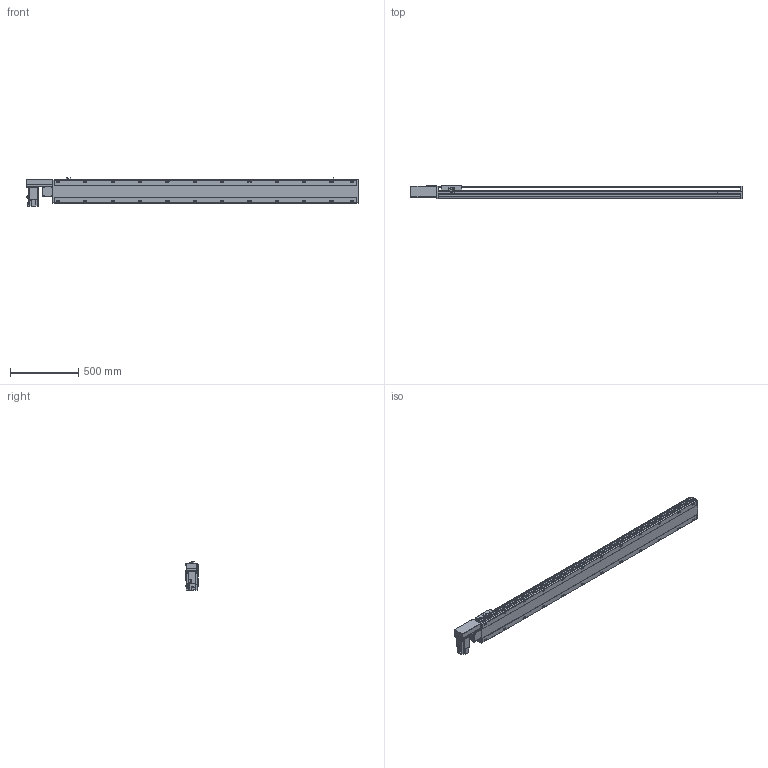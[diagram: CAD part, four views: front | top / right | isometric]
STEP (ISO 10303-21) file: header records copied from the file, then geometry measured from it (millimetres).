
FILE_DESCRIPTION(/* description */ ('STEP AP214'),/* implementation_level */ '2;1');
FILE_NAME(/* name */ 'PBS170-P40-S1950-R-T75-C1-N(0)',/* time_stamp */ '2022-06-07T09:31:26+02:00',/* author */ ('License CC BY-ND 4.0'),/* organization */ ('CADENAS'),/* preprocessor_version */ 'ST-DEVELOPER v18.102',/* originating_system */ 'PARTsolutions',/* authorisation */ ' ');
FILE_SCHEMA (('AUTOMOTIVE_DESIGN {1 0 10303 214 3 1 1}'));
Length unit declared in the file: millimetre
Products named in the file (7): PBS170-P40-S1950-R-T75-C1-N(0); PBS170_sensor; PBS170_plant; PBS170_sliser; T75-p1; PBS170T-R_motors; PBS170-S1950()_body
Assembly tree (8 placements, depth 2):
  PBS170-P40-S1950-R-T75-C1-N(0)
    PBS170_sensor  x3
    PBS170_plant
    PBS170_sliser
    T75-p1
    PBS170T-R_motors
    PBS170-S1950()_body
Bounding box: 2428 x 97 x 205.3 mm (x, y, z)
Volume: 17760038.5 mm3; surface area: 2256627.2 mm2
Topology: 8 solids, 8 shells, 1146 faces, 3035 edges, 1978 vertices
Faces by surface type: plane 711, cylinder 371, cone 54, sphere 8, torus 2
Full cylindrical faces by diameter (mm): 3.242 x4, 4 x2, 4.4 x4, 4.5 x6, 4.917 x4, 6 x9, 6.647 x32, 7 x2, 7.5 x4, 8 x8, 8.5 x24, 10 x4, 10.5 x24, 11 x2, 30 x2, 40 x1, 70 x1
Entity records: 32950 total; most frequent: CARTESIAN_POINT 6161, DIRECTION 5580, ORIENTED_EDGE 5268, EDGE_CURVE 2634, AXIS2_PLACEMENT_3D 1957, VERTEX_POINT 1826, LINE 1666, VECTOR 1666
